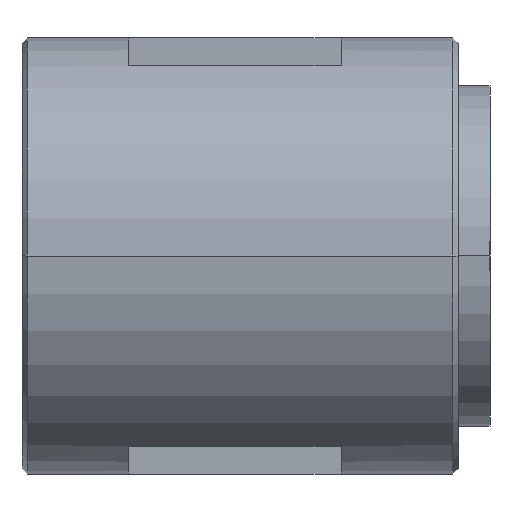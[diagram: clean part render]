
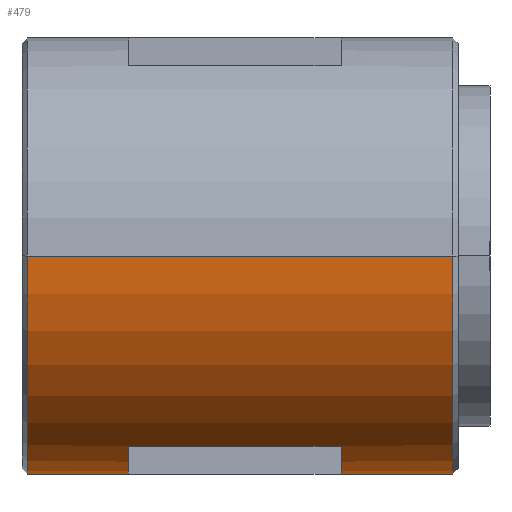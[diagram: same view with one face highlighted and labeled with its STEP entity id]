
A CAD part, left-side view. The second image highlights one B-rep face of the part: STEP entity #479.
In plain terms, the highlighted cylindrical face has radius 20.5 mm (diameter 41 mm), a partial arc.
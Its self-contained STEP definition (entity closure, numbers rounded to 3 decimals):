
#279=CARTESIAN_POINT('',(-20.5,22.75,0.));
#280=VERTEX_POINT('',#279);
#296=CARTESIAN_POINT('',(20.5,22.75,0.0));
#297=VERTEX_POINT('',#296);
#304=CARTESIAN_POINT('',(0.0,22.75,0.0));
#305=DIRECTION('',(0.0,1.0,0.0));
#306=DIRECTION('',(-1.0,0.0,0.0));
#307=AXIS2_PLACEMENT_3D('',#304,#305,#306);
#308=CIRCLE('',#307,20.5);
#309=EDGE_CURVE('',#297,#280,#308,.T.);
#356=CARTESIAN_POINT('',(0.0,-17.75,0.0));
#357=DIRECTION('',(0.0,1.0,0.0));
#358=DIRECTION('',(1.0,0.0,0.0));
#359=AXIS2_PLACEMENT_3D('',#356,#357,#358);
#360=CYLINDRICAL_SURFACE('',#359,20.5);
#361=CARTESIAN_POINT('',(20.5,-17.249,0.));
#362=VERTEX_POINT('',#361);
#363=CARTESIAN_POINT('',(20.5,-11.25,0.));
#364=VERTEX_POINT('',#363);
#365=CARTESIAN_POINT('',(20.5,-17.249,0.));
#366=DIRECTION('',(0.0,1.0,0.0));
#367=VECTOR('',#366,5.999);
#368=LINE('',#365,#367);
#369=EDGE_CURVE('',#362,#364,#368,.T.);
#370=ORIENTED_EDGE('',*,*,#369,.F.);
#371=CARTESIAN_POINT('',(-20.5,-17.249,0.0));
#372=VERTEX_POINT('',#371);
#373=CARTESIAN_POINT('',(0.0,-17.249,0.0));
#374=DIRECTION('',(0.0,-1.0,0.0));
#375=DIRECTION('',(1.0,0.0,0.0));
#376=AXIS2_PLACEMENT_3D('',#373,#374,#375);
#377=CIRCLE('',#376,20.5);
#378=EDGE_CURVE('',#372,#362,#377,.T.);
#379=ORIENTED_EDGE('',*,*,#378,.F.);
#380=CARTESIAN_POINT('',(-20.5,22.75,0.));
#381=DIRECTION('',(0.0,-1.0,0.0));
#382=VECTOR('',#381,39.999);
#383=LINE('',#380,#382);
#384=EDGE_CURVE('',#280,#372,#383,.T.);
#385=ORIENTED_EDGE('',*,*,#384,.F.);
#386=ORIENTED_EDGE('',*,*,#309,.F.);
#387=CARTESIAN_POINT('',(20.5,17.75,0.));
#388=VERTEX_POINT('',#387);
#389=CARTESIAN_POINT('',(20.5,17.75,0.));
#390=DIRECTION('',(0.0,1.0,0.0));
#391=VECTOR('',#390,5.0);
#392=LINE('',#389,#391);
#393=EDGE_CURVE('',#388,#297,#392,.T.);
#394=ORIENTED_EDGE('',*,*,#393,.F.);
#395=CARTESIAN_POINT('',(15.136,3.25,-13.826));
#396=VERTEX_POINT('',#395);
#397=CARTESIAN_POINT('',(20.5,17.75,0.));
#398=CARTESIAN_POINT('',(20.5,17.75,-1.456));
#399=CARTESIAN_POINT('',(20.339,17.503,-2.914));
#400=CARTESIAN_POINT('',(19.484,16.136,-6.927));
#401=CARTESIAN_POINT('',(18.418,14.42,-9.208));
#402=CARTESIAN_POINT('',(16.818,11.011,-11.772));
#403=CARTESIAN_POINT('',(16.247,9.61,-12.519));
#404=CARTESIAN_POINT('',(15.403,6.576,-13.544));
#405=CARTESIAN_POINT('',(15.136,4.916,-13.826));
#406=CARTESIAN_POINT('',(15.136,3.25,-13.826));
#407=B_SPLINE_CURVE_WITH_KNOTS('',3,(#397,#398,#399,#400,#401,#402,#403,#404,#405,#406),.UNSPECIFIED.,.F.,.U.,(4,2,2,2,4),(63.471,67.59,75.647,80.143,84.639),.UNSPECIFIED.);
#408=EDGE_CURVE('',#396,#388,#407,.F.);
#409=ORIENTED_EDGE('',*,*,#408,.F.);
#410=CARTESIAN_POINT('',(15.136,3.25,-13.826));
#411=CARTESIAN_POINT('',(15.136,2.215,-13.826));
#412=CARTESIAN_POINT('',(15.236,1.18,-13.718));
#413=CARTESIAN_POINT('',(15.704,-1.409,-13.184));
#414=CARTESIAN_POINT('',(16.191,-2.901,-12.609));
#415=CARTESIAN_POINT('',(17.539,-6.213,-10.704));
#416=CARTESIAN_POINT('',(18.463,-7.88,-9.135));
#417=CARTESIAN_POINT('',(19.969,-10.452,-5.149));
#418=CARTESIAN_POINT('',(20.5,-11.25,-2.58));
#419=CARTESIAN_POINT('',(20.5,-11.25,0.));
#420=B_SPLINE_CURVE_WITH_KNOTS('',3,(#410,#411,#412,#413,#414,#415,#416,#417,#418,#419),.UNSPECIFIED.,.F.,.U.,(4,2,2,2,4),(0.0,2.793,7.261,13.85,21.155),.UNSPECIFIED.);
#421=EDGE_CURVE('',#364,#396,#420,.F.);
#422=ORIENTED_EDGE('',*,*,#421,.F.);
#423=EDGE_LOOP('',(#370,#379,#385,#386,#394,#409,#422));
#424=FACE_OUTER_BOUND('',#423,.T.);
#425=CARTESIAN_POINT('',(10.,13.25,-17.896));
#426=VERTEX_POINT('',#425);
#427=CARTESIAN_POINT('',(0.0,13.25,-20.5));
#428=VERTEX_POINT('',#427);
#429=CARTESIAN_POINT('',(0.0,13.25,0.0));
#430=DIRECTION('',(0.0,1.0,0.0));
#431=DIRECTION('',(1.0,0.0,0.0));
#432=AXIS2_PLACEMENT_3D('',#429,#430,#431);
#433=CIRCLE('',#432,20.5);
#434=EDGE_CURVE('',#426,#428,#433,.T.);
#435=ORIENTED_EDGE('',*,*,#434,.T.);
#436=CARTESIAN_POINT('',(-10.,13.25,-17.896));
#437=VERTEX_POINT('',#436);
#438=CARTESIAN_POINT('',(0.0,13.25,0.0));
#439=DIRECTION('',(0.0,1.0,0.0));
#440=DIRECTION('',(1.0,0.0,0.0));
#441=AXIS2_PLACEMENT_3D('',#438,#439,#440);
#442=CIRCLE('',#441,20.5);
#443=EDGE_CURVE('',#428,#437,#442,.T.);
#444=ORIENTED_EDGE('',*,*,#443,.T.);
#445=CARTESIAN_POINT('',(-10.,-6.75,-17.896));
#446=VERTEX_POINT('',#445);
#447=CARTESIAN_POINT('',(-10.,13.25,-17.896));
#448=DIRECTION('',(0.0,-1.0,0.0));
#449=VECTOR('',#448,20.0);
#450=LINE('',#447,#449);
#451=EDGE_CURVE('',#437,#446,#450,.T.);
#452=ORIENTED_EDGE('',*,*,#451,.T.);
#453=CARTESIAN_POINT('',(0.0,-6.75,-20.5));
#454=VERTEX_POINT('',#453);
#455=CARTESIAN_POINT('',(0.0,-6.75,0.0));
#456=DIRECTION('',(0.0,-1.0,0.0));
#457=DIRECTION('',(1.0,0.0,0.0));
#458=AXIS2_PLACEMENT_3D('',#455,#456,#457);
#459=CIRCLE('',#458,20.5);
#460=EDGE_CURVE('',#446,#454,#459,.T.);
#461=ORIENTED_EDGE('',*,*,#460,.T.);
#462=CARTESIAN_POINT('',(10.,-6.75,-17.896));
#463=VERTEX_POINT('',#462);
#464=CARTESIAN_POINT('',(0.0,-6.75,0.0));
#465=DIRECTION('',(0.0,-1.0,0.0));
#466=DIRECTION('',(1.0,0.0,0.0));
#467=AXIS2_PLACEMENT_3D('',#464,#465,#466);
#468=CIRCLE('',#467,20.5);
#469=EDGE_CURVE('',#454,#463,#468,.T.);
#470=ORIENTED_EDGE('',*,*,#469,.T.);
#471=CARTESIAN_POINT('',(10.,-6.75,-17.896));
#472=DIRECTION('',(0.0,1.0,0.0));
#473=VECTOR('',#472,20.0);
#474=LINE('',#471,#473);
#475=EDGE_CURVE('',#463,#426,#474,.T.);
#476=ORIENTED_EDGE('',*,*,#475,.T.);
#477=EDGE_LOOP('',(#435,#444,#452,#461,#470,#476));
#478=FACE_BOUND('',#477,.T.);
#479=ADVANCED_FACE('',(#424,#478),#360,.T.);
